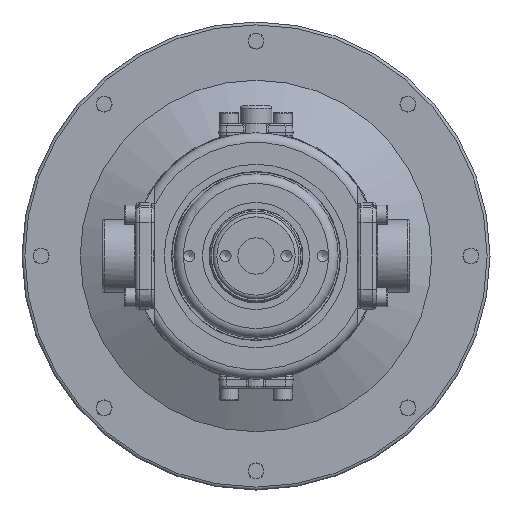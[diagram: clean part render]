
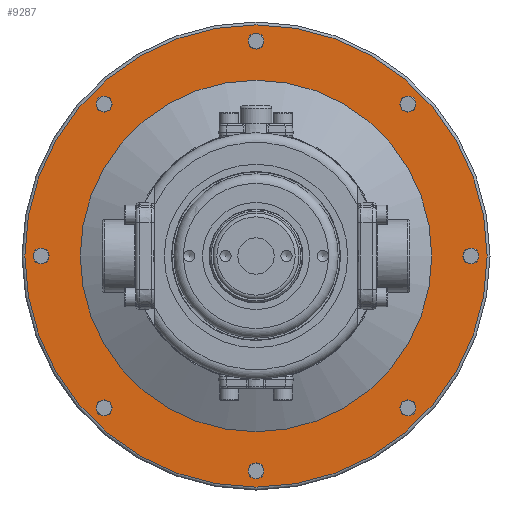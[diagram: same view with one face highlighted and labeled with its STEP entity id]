
A CAD part, front view. The second image highlights one B-rep face of the part: STEP entity #9287.
In plain terms, the highlighted planar face has unit normal (0, -1, 0).
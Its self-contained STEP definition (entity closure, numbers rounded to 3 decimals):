
#2044=FACE_BOUND('',#3053,.T.);
#2045=FACE_BOUND('',#3054,.T.);
#2046=FACE_BOUND('',#3055,.T.);
#2047=FACE_BOUND('',#3056,.T.);
#2048=FACE_BOUND('',#3057,.T.);
#2049=FACE_BOUND('',#3058,.T.);
#2050=FACE_BOUND('',#3059,.T.);
#2051=FACE_BOUND('',#3060,.T.);
#2052=FACE_BOUND('',#3061,.T.);
#2406=FACE_OUTER_BOUND('',#3052,.T.);
#3052=EDGE_LOOP('',(#7725));
#3053=EDGE_LOOP('',(#7726));
#3054=EDGE_LOOP('',(#7727));
#3055=EDGE_LOOP('',(#7728));
#3056=EDGE_LOOP('',(#7729));
#3057=EDGE_LOOP('',(#7730));
#3058=EDGE_LOOP('',(#7731));
#3059=EDGE_LOOP('',(#7732));
#3060=EDGE_LOOP('',(#7733));
#3061=EDGE_LOOP('',(#7734));
#3687=CIRCLE('',#10893,4.188);
#3689=CIRCLE('',#10897,4.188);
#3691=CIRCLE('',#10901,4.188);
#3693=CIRCLE('',#10905,4.188);
#3695=CIRCLE('',#10909,4.188);
#3697=CIRCLE('',#10913,4.188);
#3699=CIRCLE('',#10917,4.188);
#3701=CIRCLE('',#10921,4.188);
#3704=CIRCLE('',#10925,121.);
#3708=CIRCLE('',#10931,92.);
#4500=VERTEX_POINT('',#19202);
#4502=VERTEX_POINT('',#19210);
#4504=VERTEX_POINT('',#19218);
#4506=VERTEX_POINT('',#19226);
#4508=VERTEX_POINT('',#19234);
#4510=VERTEX_POINT('',#19242);
#4512=VERTEX_POINT('',#19250);
#4514=VERTEX_POINT('',#19258);
#4517=VERTEX_POINT('',#19265);
#4520=VERTEX_POINT('',#19276);
#5613=EDGE_CURVE('',#4500,#4500,#3687,.T.);
#5617=EDGE_CURVE('',#4502,#4502,#3689,.T.);
#5621=EDGE_CURVE('',#4504,#4504,#3691,.T.);
#5625=EDGE_CURVE('',#4506,#4506,#3693,.T.);
#5629=EDGE_CURVE('',#4508,#4508,#3695,.T.);
#5633=EDGE_CURVE('',#4510,#4510,#3697,.T.);
#5637=EDGE_CURVE('',#4512,#4512,#3699,.T.);
#5641=EDGE_CURVE('',#4514,#4514,#3701,.T.);
#5645=EDGE_CURVE('',#4517,#4517,#3704,.T.);
#5650=EDGE_CURVE('',#4520,#4520,#3708,.T.);
#7725=ORIENTED_EDGE('',*,*,#5645,.F.);
#7726=ORIENTED_EDGE('',*,*,#5650,.T.);
#7727=ORIENTED_EDGE('',*,*,#5613,.T.);
#7728=ORIENTED_EDGE('',*,*,#5637,.T.);
#7729=ORIENTED_EDGE('',*,*,#5629,.T.);
#7730=ORIENTED_EDGE('',*,*,#5621,.T.);
#7731=ORIENTED_EDGE('',*,*,#5617,.T.);
#7732=ORIENTED_EDGE('',*,*,#5625,.T.);
#7733=ORIENTED_EDGE('',*,*,#5633,.T.);
#7734=ORIENTED_EDGE('',*,*,#5641,.T.);
#8904=PLANE('',#10930);
#9287=ADVANCED_FACE('',(#2406,#2044,#2045,#2046,#2047,#2048,#2049,#2050,
#2051,#2052),#8904,.F.);
#10893=AXIS2_PLACEMENT_3D('',#19203,#13033,#13034);
#10897=AXIS2_PLACEMENT_3D('',#19211,#13043,#13044);
#10901=AXIS2_PLACEMENT_3D('',#19219,#13053,#13054);
#10905=AXIS2_PLACEMENT_3D('',#19227,#13063,#13064);
#10909=AXIS2_PLACEMENT_3D('',#19235,#13073,#13074);
#10913=AXIS2_PLACEMENT_3D('',#19243,#13083,#13084);
#10917=AXIS2_PLACEMENT_3D('',#19251,#13093,#13094);
#10921=AXIS2_PLACEMENT_3D('',#19259,#13103,#13104);
#10925=AXIS2_PLACEMENT_3D('',#19267,#13112,#13113);
#10930=AXIS2_PLACEMENT_3D('',#19275,#13123,#13124);
#10931=AXIS2_PLACEMENT_3D('',#19277,#13125,#13126);
#13033=DIRECTION('center_axis',(0.,1.,0.));
#13034=DIRECTION('ref_axis',(1.,0.,0.));
#13043=DIRECTION('center_axis',(0.,1.,0.));
#13044=DIRECTION('ref_axis',(1.,0.,0.));
#13053=DIRECTION('center_axis',(0.,1.,0.));
#13054=DIRECTION('ref_axis',(1.,0.,0.));
#13063=DIRECTION('center_axis',(0.,1.,0.));
#13064=DIRECTION('ref_axis',(1.,0.,0.));
#13073=DIRECTION('center_axis',(0.,1.,0.));
#13074=DIRECTION('ref_axis',(1.,0.,0.));
#13083=DIRECTION('center_axis',(0.,1.,0.));
#13084=DIRECTION('ref_axis',(1.,0.,0.));
#13093=DIRECTION('center_axis',(0.,1.,0.));
#13094=DIRECTION('ref_axis',(1.,0.,0.));
#13103=DIRECTION('center_axis',(0.,1.,0.));
#13104=DIRECTION('ref_axis',(1.,0.,0.));
#13112=DIRECTION('center_axis',(0.,1.,0.));
#13113=DIRECTION('ref_axis',(1.,0.,0.));
#13123=DIRECTION('center_axis',(0.,1.,0.));
#13124=DIRECTION('ref_axis',(0.,0.,
1.));
#13125=DIRECTION('center_axis',(0.,1.,0.));
#13126=DIRECTION('ref_axis',(1.,0.,0.));
#19202=CARTESIAN_POINT('',(-83.738,13.,79.55));
#19203=CARTESIAN_POINT('Origin',(-79.55,13.,79.55));
#19210=CARTESIAN_POINT('',(-4.188,13.,112.5));
#19211=CARTESIAN_POINT('Origin',(0.,13.,112.5));
#19218=CARTESIAN_POINT('',(75.362,13.,79.55));
#19219=CARTESIAN_POINT('Origin',(79.55,13.,79.55));
#19226=CARTESIAN_POINT('',(108.312,13.,0.));
#19227=CARTESIAN_POINT('Origin',(112.5,13.,0.));
#19234=CARTESIAN_POINT('',(75.362,13.,-79.55));
#19235=CARTESIAN_POINT('Origin',(79.55,13.,-79.55));
#19242=CARTESIAN_POINT('',(-4.188,13.,-112.5));
#19243=CARTESIAN_POINT('Origin',(0.,13.,-112.5));
#19250=CARTESIAN_POINT('',(-83.738,13.,-79.55));
#19251=CARTESIAN_POINT('Origin',(-79.55,13.,-79.55));
#19258=CARTESIAN_POINT('',(-116.688,13.,0.));
#19259=CARTESIAN_POINT('Origin',(-112.5,13.,0.));
#19265=CARTESIAN_POINT('',(0.,13.,-121.));
#19267=CARTESIAN_POINT('Origin',(0.,13.,0.));
#19275=CARTESIAN_POINT('Origin',(-92.,13.,0.));
#19276=CARTESIAN_POINT('',(92.,13.,0.));
#19277=CARTESIAN_POINT('Origin',(0.,13.,0.));
